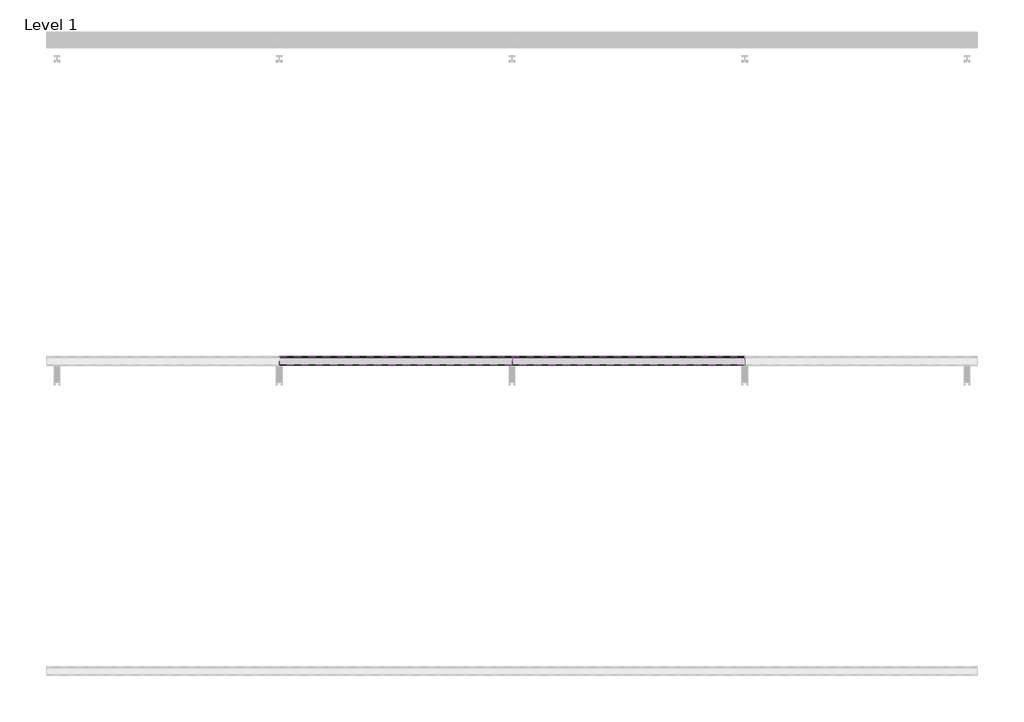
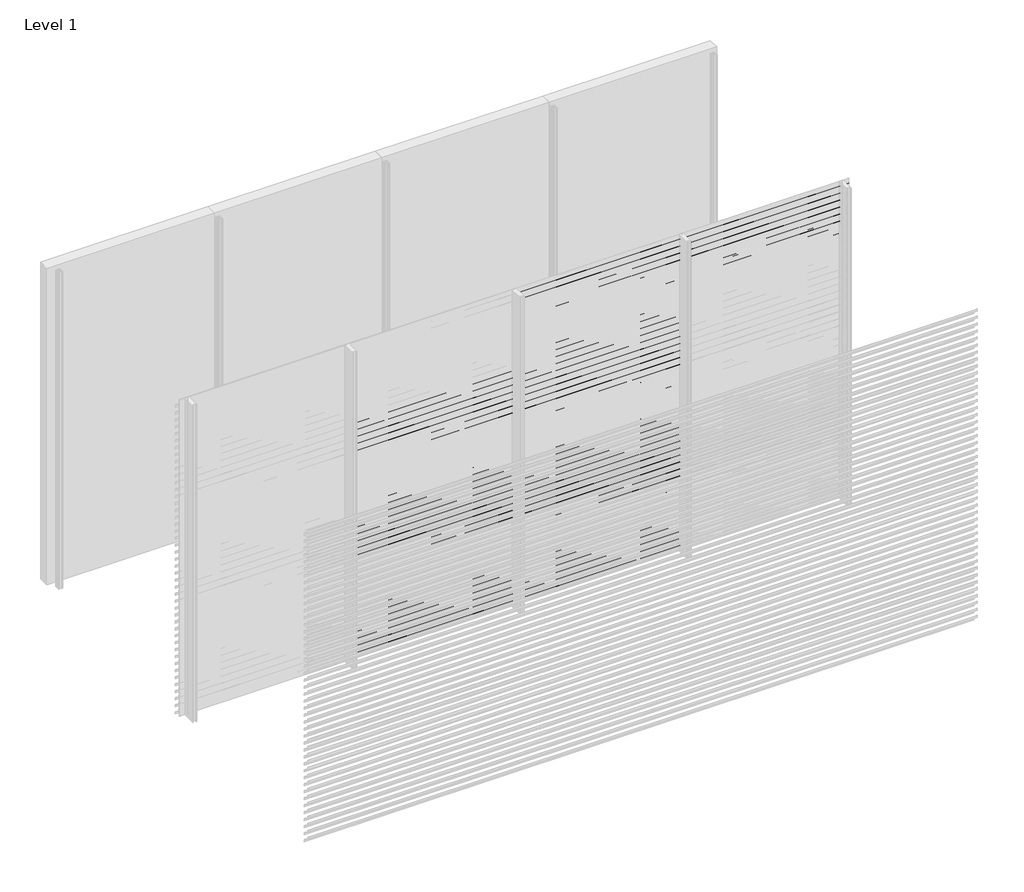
# One storey, part 4 of 25: 87 proxies.
"""IFC4 building model written with IfcOpenShell, lengths in millimetres."""

from ifc_helpers import new_model, si_unit, frame, origin, place, context, project, spatial, polyline, outline, extrude, element, save

model = new_model("IFC4")

# Units and contexts
model_context = context("Model", 3, world=origin())
ifc_project = project(units=[si_unit("LENGTHUNIT", "METRE", prefix="MILLI")], contexts=[model_context])

# Site, building, storey
site = spatial("IfcSite", under=ifc_project)
building = spatial("IfcBuilding", under=site)
storey = spatial("IfcBuildingStorey", under=building, Name="Level 1", Elevation=0.0)

# Proxies
placement = place(None, origin())
element("IfcBuildingElementProxy", 1, Name="Wall Sweeps", at=placement, inside=storey, context=model_context, shape_type="SweptSolid", body=[
    extrude(outline(polyline([(-47943.0, 2187.5), (-47943.0, 2167.5), (-47944.25, 2168.2216933), (-47944.25, 2186.7872415), (-47998.0, 2224.3158044), (-47998.0, 2244.0), (-47996.75, 2244.0), (-47996.75, 2225.0285629), (-47943.0, 2187.5)])), frame((1500.0, 0.0, 0.0), z_axis=(1.0, 0.0, 0.0), x_axis=(0.0, 1.0, 0.0)), (0.0, 0.0, 1.0), 1500.0),
])
element("IfcBuildingElementProxy", 2, Name="Wall Sweeps", at=placement, inside=storey, context=model_context, shape_type="SweptSolid", body=[
    extrude(outline(polyline([(-47943.0, 2121.5), (-47943.0, 2101.5), (-47944.25, 2102.2216933), (-47944.25, 2120.7872415), (-47998.0, 2158.3158044), (-47998.0, 2178.0), (-47996.75, 2178.0), (-47996.75, 2159.0285629), (-47943.0, 2121.5)])), frame((1500.0, 0.0, 0.0), z_axis=(1.0, 0.0, 0.0), x_axis=(0.0, 1.0, 0.0)), (0.0, 0.0, 1.0), 1500.0),
])
element("IfcBuildingElementProxy", 3, Name="Wall Sweeps", at=placement, inside=storey, context=model_context, shape_type="SweptSolid", body=[
    extrude(outline(polyline([(-47943.0, 2055.5), (-47943.0, 2035.5), (-47944.25, 2036.2216933), (-47944.25, 2054.7872415), (-47998.0, 2092.3158044), (-47998.0, 2112.0), (-47996.75, 2112.0), (-47996.75, 2093.0285629), (-47943.0, 2055.5)])), frame((1500.0, 0.0, 0.0), z_axis=(1.0, 0.0, 0.0), x_axis=(0.0, 1.0, 0.0)), (0.0, 0.0, 1.0), 1500.0),
])
element("IfcBuildingElementProxy", 4, Name="Wall Sweeps", at=placement, inside=storey, context=model_context, shape_type="SweptSolid", body=[
    extrude(outline(polyline([(-47943.0, 1989.5), (-47943.0, 1969.5), (-47944.25, 1970.2216933), (-47944.25, 1988.7872415), (-47998.0, 2026.3158044), (-47998.0, 2046.0), (-47996.75, 2046.0), (-47996.75, 2027.0285629), (-47943.0, 1989.5)])), frame((1500.0, 0.0, 0.0), z_axis=(1.0, 0.0, 0.0), x_axis=(0.0, 1.0, 0.0)), (0.0, 0.0, 1.0), 1500.0),
])
element("IfcBuildingElementProxy", 5, Name="Wall Sweeps", at=placement, inside=storey, context=model_context, shape_type="SweptSolid", body=[
    extrude(outline(polyline([(-47943.0, 1923.5), (-47943.0, 1903.5), (-47944.25, 1904.2216933), (-47944.25, 1922.7872415), (-47998.0, 1960.3158044), (-47998.0, 1980.0), (-47996.75, 1980.0), (-47996.75, 1961.0285629), (-47943.0, 1923.5)])), frame((1500.0, 0.0, 0.0), z_axis=(1.0, 0.0, 0.0), x_axis=(0.0, 1.0, 0.0)), (0.0, 0.0, 1.0), 1500.0),
])
element("IfcBuildingElementProxy", 6, Name="Wall Sweeps", at=placement, inside=storey, context=model_context, shape_type="SweptSolid", body=[
    extrude(outline(polyline([(-47943.0, 1857.5), (-47943.0, 1837.5), (-47944.25, 1838.2216933), (-47944.25, 1856.7872415), (-47998.0, 1894.3158044), (-47998.0, 1914.0), (-47996.75, 1914.0), (-47996.75, 1895.0285629), (-47943.0, 1857.5)])), frame((1500.0, 0.0, 0.0), z_axis=(1.0, 0.0, 0.0), x_axis=(0.0, 1.0, 0.0)), (0.0, 0.0, 1.0), 1500.0),
])
element("IfcBuildingElementProxy", 7, Name="Wall Sweeps", at=placement, inside=storey, context=model_context, shape_type="SweptSolid", body=[
    extrude(outline(polyline([(-47943.0, 1791.5), (-47943.0, 1771.5), (-47944.25, 1772.2216933), (-47944.25, 1790.7872415), (-47998.0, 1828.3158044), (-47998.0, 1848.0), (-47996.75, 1848.0), (-47996.75, 1829.0285629), (-47943.0, 1791.5)])), frame((1500.0, 0.0, 0.0), z_axis=(1.0, 0.0, 0.0), x_axis=(0.0, 1.0, 0.0)), (0.0, 0.0, 1.0), 1500.0),
])
element("IfcBuildingElementProxy", 8, Name="Wall Sweeps", at=placement, inside=storey, context=model_context, shape_type="SweptSolid", body=[
    extrude(outline(polyline([(-47943.0, 1725.5), (-47943.0, 1705.5), (-47944.25, 1706.2216933), (-47944.25, 1724.7872415), (-47998.0, 1762.3158044), (-47998.0, 1782.0), (-47996.75, 1782.0), (-47996.75, 1763.0285629), (-47943.0, 1725.5)])), frame((1500.0, 0.0, 0.0), z_axis=(1.0, 0.0, 0.0), x_axis=(0.0, 1.0, 0.0)), (0.0, 0.0, 1.0), 1500.0),
])
element("IfcBuildingElementProxy", 9, Name="Wall Sweeps", at=placement, inside=storey, context=model_context, shape_type="SweptSolid", body=[
    extrude(outline(polyline([(-47943.0, 1659.5), (-47943.0, 1639.5), (-47944.25, 1640.2216933), (-47944.25, 1658.7872415), (-47998.0, 1696.3158044), (-47998.0, 1716.0), (-47996.75, 1716.0), (-47996.75, 1697.0285629), (-47943.0, 1659.5)])), frame((1500.0, 0.0, 0.0), z_axis=(1.0, 0.0, 0.0), x_axis=(0.0, 1.0, 0.0)), (0.0, 0.0, 1.0), 1500.0),
])
element("IfcBuildingElementProxy", 10, Name="Wall Sweeps", at=placement, inside=storey, context=model_context, shape_type="SweptSolid", body=[
    extrude(outline(polyline([(-47943.0, 1593.5), (-47943.0, 1573.5), (-47944.25, 1574.2216933), (-47944.25, 1592.7872415), (-47998.0, 1630.3158044), (-47998.0, 1650.0), (-47996.75, 1650.0), (-47996.75, 1631.0285629), (-47943.0, 1593.5)])), frame((1500.0, 0.0, 0.0), z_axis=(1.0, 0.0, 0.0), x_axis=(0.0, 1.0, 0.0)), (0.0, 0.0, 1.0), 1500.0),
])
element("IfcBuildingElementProxy", 11, Name="Wall Sweeps", at=placement, inside=storey, context=model_context, shape_type="SweptSolid", body=[
    extrude(outline(polyline([(-47943.0, 1527.5), (-47943.0, 1507.5), (-47944.25, 1508.2216933), (-47944.25, 1526.7872415), (-47998.0, 1564.3158044), (-47998.0, 1584.0), (-47996.75, 1584.0), (-47996.75, 1565.0285629), (-47943.0, 1527.5)])), frame((1500.0, 0.0, 0.0), z_axis=(1.0, 0.0, 0.0), x_axis=(0.0, 1.0, 0.0)), (0.0, 0.0, 1.0), 1500.0),
])
element("IfcBuildingElementProxy", 12, Name="Wall Sweeps", at=placement, inside=storey, context=model_context, shape_type="SweptSolid", body=[
    extrude(outline(polyline([(-47943.0, 1461.5), (-47943.0, 1441.5), (-47944.25, 1442.2216933), (-47944.25, 1460.7872415), (-47998.0, 1498.3158044), (-47998.0, 1518.0), (-47996.75, 1518.0), (-47996.75, 1499.0285629), (-47943.0, 1461.5)])), frame((1500.0, 0.0, 0.0), z_axis=(1.0, 0.0, 0.0), x_axis=(0.0, 1.0, 0.0)), (0.0, 0.0, 1.0), 1500.0),
])
element("IfcBuildingElementProxy", 13, Name="Wall Sweeps", at=placement, inside=storey, context=model_context, shape_type="SweptSolid", body=[
    extrude(outline(polyline([(-47943.0, 1395.5), (-47943.0, 1375.5), (-47944.25, 1376.2216933), (-47944.25, 1394.7872415), (-47998.0, 1432.3158044), (-47998.0, 1452.0), (-47996.75, 1452.0), (-47996.75, 1433.0285629), (-47943.0, 1395.5)])), frame((1500.0, 0.0, 0.0), z_axis=(1.0, 0.0, 0.0), x_axis=(0.0, 1.0, 0.0)), (0.0, 0.0, 1.0), 1500.0),
])
element("IfcBuildingElementProxy", 14, Name="Wall Sweeps", at=placement, inside=storey, context=model_context, shape_type="SweptSolid", body=[
    extrude(outline(polyline([(-47943.0, 1329.5), (-47943.0, 1309.5), (-47944.25, 1310.2216933), (-47944.25, 1328.7872415), (-47998.0, 1366.3158044), (-47998.0, 1386.0), (-47996.75, 1386.0), (-47996.75, 1367.0285629), (-47943.0, 1329.5)])), frame((1500.0, 0.0, 0.0), z_axis=(1.0, 0.0, 0.0), x_axis=(0.0, 1.0, 0.0)), (0.0, 0.0, 1.0), 1500.0),
])
element("IfcBuildingElementProxy", 15, Name="Wall Sweeps", at=placement, inside=storey, context=model_context, shape_type="SweptSolid", body=[
    extrude(outline(polyline([(-47943.0, 1263.5), (-47943.0, 1243.5), (-47944.25, 1244.2216933), (-47944.25, 1262.7872415), (-47998.0, 1300.3158044), (-47998.0, 1320.0), (-47996.75, 1320.0), (-47996.75, 1301.0285629), (-47943.0, 1263.5)])), frame((1500.0, 0.0, 0.0), z_axis=(1.0, 0.0, 0.0), x_axis=(0.0, 1.0, 0.0)), (0.0, 0.0, 1.0), 1500.0),
])
element("IfcBuildingElementProxy", 16, Name="Wall Sweeps", at=placement, inside=storey, context=model_context, shape_type="SweptSolid", body=[
    extrude(outline(polyline([(-47943.0, 1197.5), (-47943.0, 1177.5), (-47944.25, 1178.2216933), (-47944.25, 1196.7872415), (-47998.0, 1234.3158044), (-47998.0, 1254.0), (-47996.75, 1254.0), (-47996.75, 1235.0285629), (-47943.0, 1197.5)])), frame((1500.0, 0.0, 0.0), z_axis=(1.0, 0.0, 0.0), x_axis=(0.0, 1.0, 0.0)), (0.0, 0.0, 1.0), 1500.0),
])
element("IfcBuildingElementProxy", 17, Name="Wall Sweeps", at=placement, inside=storey, context=model_context, shape_type="SweptSolid", body=[
    extrude(outline(polyline([(-47943.0, 1131.5), (-47943.0, 1111.5), (-47944.25, 1112.2216933), (-47944.25, 1130.7872415), (-47998.0, 1168.3158044), (-47998.0, 1188.0), (-47996.75, 1188.0), (-47996.75, 1169.0285629), (-47943.0, 1131.5)])), frame((1500.0, 0.0, 0.0), z_axis=(1.0, 0.0, 0.0), x_axis=(0.0, 1.0, 0.0)), (0.0, 0.0, 1.0), 1500.0),
])
element("IfcBuildingElementProxy", 18, Name="Wall Sweeps", at=placement, inside=storey, context=model_context, shape_type="SweptSolid", body=[
    extrude(outline(polyline([(-47943.0, 1065.5), (-47943.0, 1045.5), (-47944.25, 1046.2216933), (-47944.25, 1064.7872415), (-47998.0, 1102.3158044), (-47998.0, 1122.0), (-47996.75, 1122.0), (-47996.75, 1103.0285629), (-47943.0, 1065.5)])), frame((1500.0, 0.0, 0.0), z_axis=(1.0, 0.0, 0.0), x_axis=(0.0, 1.0, 0.0)), (0.0, 0.0, 1.0), 1500.0),
])
element("IfcBuildingElementProxy", 19, Name="Wall Sweeps", at=placement, inside=storey, context=model_context, shape_type="SweptSolid", body=[
    extrude(outline(polyline([(-47943.0, 999.5), (-47943.0, 979.5), (-47944.25, 980.2216933), (-47944.25, 998.7872415), (-47998.0, 1036.3158044), (-47998.0, 1056.0), (-47996.75, 1056.0), (-47996.75, 1037.0285629), (-47943.0, 999.5)])), frame((1500.0, 0.0, 0.0), z_axis=(1.0, 0.0, 0.0), x_axis=(0.0, 1.0, 0.0)), (0.0, 0.0, 1.0), 1500.0),
])
element("IfcBuildingElementProxy", 20, Name="Wall Sweeps", at=placement, inside=storey, context=model_context, shape_type="SweptSolid", body=[
    extrude(outline(polyline([(-47943.0, 933.5), (-47943.0, 913.5), (-47944.25, 914.2216933), (-47944.25, 932.7872415), (-47998.0, 970.3158044), (-47998.0, 990.0), (-47996.75, 990.0), (-47996.75, 971.0285629), (-47943.0, 933.5)])), frame((1500.0, 0.0, 0.0), z_axis=(1.0, 0.0, 0.0), x_axis=(0.0, 1.0, 0.0)), (0.0, 0.0, 1.0), 1500.0),
])
element("IfcBuildingElementProxy", 21, Name="Wall Sweeps", at=placement, inside=storey, context=model_context, shape_type="SweptSolid", body=[
    extrude(outline(polyline([(-47943.0, 867.5), (-47943.0, 847.5), (-47944.25, 848.2216933), (-47944.25, 866.7872415), (-47998.0, 904.3158044), (-47998.0, 924.0), (-47996.75, 924.0), (-47996.75, 905.0285629), (-47943.0, 867.5)])), frame((1500.0, 0.0, 0.0), z_axis=(1.0, 0.0, 0.0), x_axis=(0.0, 1.0, 0.0)), (0.0, 0.0, 1.0), 1500.0),
])
element("IfcBuildingElementProxy", 22, Name="Wall Sweeps", at=placement, inside=storey, context=model_context, shape_type="SweptSolid", body=[
    extrude(outline(polyline([(-47943.0, 801.5), (-47943.0, 781.5), (-47944.25, 782.2216933), (-47944.25, 800.7872415), (-47998.0, 838.3158044), (-47998.0, 858.0), (-47996.75, 858.0), (-47996.75, 839.0285629), (-47943.0, 801.5)])), frame((1500.0, 0.0, 0.0), z_axis=(1.0, 0.0, 0.0), x_axis=(0.0, 1.0, 0.0)), (0.0, 0.0, 1.0), 1500.0),
])
element("IfcBuildingElementProxy", 23, Name="Wall Sweeps", at=placement, inside=storey, context=model_context, shape_type="SweptSolid", body=[
    extrude(outline(polyline([(-47943.0, 735.5), (-47943.0, 715.5), (-47944.25, 716.2216933), (-47944.25, 734.7872415), (-47998.0, 772.3158044), (-47998.0, 792.0), (-47996.75, 792.0), (-47996.75, 773.0285629), (-47943.0, 735.5)])), frame((1500.0, 0.0, 0.0), z_axis=(1.0, 0.0, 0.0), x_axis=(0.0, 1.0, 0.0)), (0.0, 0.0, 1.0), 1500.0),
])
element("IfcBuildingElementProxy", 24, Name="Wall Sweeps", at=placement, inside=storey, context=model_context, shape_type="SweptSolid", body=[
    extrude(outline(polyline([(-47943.0, 669.5), (-47943.0, 649.5), (-47944.25, 650.2216933), (-47944.25, 668.7872415), (-47998.0, 706.3158044), (-47998.0, 726.0), (-47996.75, 726.0), (-47996.75, 707.0285629), (-47943.0, 669.5)])), frame((1500.0, 0.0, 0.0), z_axis=(1.0, 0.0, 0.0), x_axis=(0.0, 1.0, 0.0)), (0.0, 0.0, 1.0), 1500.0),
])
element("IfcBuildingElementProxy", 25, Name="Wall Sweeps", at=placement, inside=storey, context=model_context, shape_type="SweptSolid", body=[
    extrude(outline(polyline([(-47943.0, 603.5), (-47943.0, 583.5), (-47944.25, 584.2216933), (-47944.25, 602.7872415), (-47998.0, 640.3158044), (-47998.0, 660.0), (-47996.75, 660.0), (-47996.75, 641.0285629), (-47943.0, 603.5)])), frame((1500.0, 0.0, 0.0), z_axis=(1.0, 0.0, 0.0), x_axis=(0.0, 1.0, 0.0)), (0.0, 0.0, 1.0), 1500.0),
])
element("IfcBuildingElementProxy", 26, Name="Wall Sweeps", at=placement, inside=storey, context=model_context, shape_type="SweptSolid", body=[
    extrude(outline(polyline([(-47943.0, 537.5), (-47943.0, 517.5), (-47944.25, 518.2216933), (-47944.25, 536.7872415), (-47998.0, 574.3158044), (-47998.0, 594.0), (-47996.75, 594.0), (-47996.75, 575.0285629), (-47943.0, 537.5)])), frame((1500.0, 0.0, 0.0), z_axis=(1.0, 0.0, 0.0), x_axis=(0.0, 1.0, 0.0)), (0.0, 0.0, 1.0), 1500.0),
])
element("IfcBuildingElementProxy", 27, Name="Wall Sweeps", at=placement, inside=storey, context=model_context, shape_type="SweptSolid", body=[
    extrude(outline(polyline([(-47943.0, 471.5), (-47943.0, 451.5), (-47944.25, 452.2216933), (-47944.25, 470.7872415), (-47998.0, 508.3158044), (-47998.0, 528.0), (-47996.75, 528.0), (-47996.75, 509.0285629), (-47943.0, 471.5)])), frame((1500.0, 0.0, 0.0), z_axis=(1.0, 0.0, 0.0), x_axis=(0.0, 1.0, 0.0)), (0.0, 0.0, 1.0), 1500.0),
])
element("IfcBuildingElementProxy", 28, Name="Wall Sweeps", at=placement, inside=storey, context=model_context, shape_type="SweptSolid", body=[
    extrude(outline(polyline([(-47943.0, 405.5), (-47943.0, 385.5), (-47944.25, 386.2216933), (-47944.25, 404.7872415), (-47998.0, 442.3158044), (-47998.0, 462.0), (-47996.75, 462.0), (-47996.75, 443.0285629), (-47943.0, 405.5)])), frame((1500.0, 0.0, 0.0), z_axis=(1.0, 0.0, 0.0), x_axis=(0.0, 1.0, 0.0)), (0.0, 0.0, 1.0), 1500.0),
])
element("IfcBuildingElementProxy", 29, Name="Wall Sweeps", at=placement, inside=storey, context=model_context, shape_type="SweptSolid", body=[
    extrude(outline(polyline([(-47943.0, 339.5), (-47943.0, 319.5), (-47944.25, 320.2216933), (-47944.25, 338.7872415), (-47998.0, 376.3158044), (-47998.0, 396.0), (-47996.75, 396.0), (-47996.75, 377.0285629), (-47943.0, 339.5)])), frame((1500.0, 0.0, 0.0), z_axis=(1.0, 0.0, 0.0), x_axis=(0.0, 1.0, 0.0)), (0.0, 0.0, 1.0), 1500.0),
])
element("IfcBuildingElementProxy", 30, Name="Wall Sweeps", at=placement, inside=storey, context=model_context, shape_type="SweptSolid", body=[
    extrude(outline(polyline([(-47943.0, 273.5), (-47943.0, 253.5), (-47944.25, 254.2216933), (-47944.25, 272.7872415), (-47998.0, 310.3158044), (-47998.0, 330.0), (-47996.75, 330.0), (-47996.75, 311.0285629), (-47943.0, 273.5)])), frame((1500.0, 0.0, 0.0), z_axis=(1.0, 0.0, 0.0), x_axis=(0.0, 1.0, 0.0)), (0.0, 0.0, 1.0), 1500.0),
])
element("IfcBuildingElementProxy", 31, Name="Wall Sweeps", at=placement, inside=storey, context=model_context, shape_type="SweptSolid", body=[
    extrude(outline(polyline([(-47943.0, 207.5), (-47943.0, 187.5), (-47944.25, 188.2216933), (-47944.25, 206.7872415), (-47998.0, 244.3158044), (-47998.0, 264.0), (-47996.75, 264.0), (-47996.75, 245.0285629), (-47943.0, 207.5)])), frame((1500.0, 0.0, 0.0), z_axis=(1.0, 0.0, 0.0), x_axis=(0.0, 1.0, 0.0)), (0.0, 0.0, 1.0), 1500.0),
])
element("IfcBuildingElementProxy", 32, Name="Wall Sweeps", at=placement, inside=storey, context=model_context, shape_type="SweptSolid", body=[
    extrude(outline(polyline([(-47943.0, 141.5), (-47943.0, 121.5), (-47944.25, 122.2216933), (-47944.25, 140.7872415), (-47998.0, 178.3158044), (-47998.0, 198.0), (-47996.75, 198.0), (-47996.75, 179.0285629), (-47943.0, 141.5)])), frame((1500.0, 0.0, 0.0), z_axis=(1.0, 0.0, 0.0), x_axis=(0.0, 1.0, 0.0)), (0.0, 0.0, 1.0), 1500.0),
])
element("IfcBuildingElementProxy", 33, Name="Wall Sweeps", at=placement, inside=storey, context=model_context, shape_type="SweptSolid", body=[
    extrude(outline(polyline([(-47943.0, 75.5), (-47943.0, 55.5), (-47944.25, 56.2216933), (-47944.25, 74.7872415), (-47998.0, 112.3158044), (-47998.0, 132.0), (-47996.75, 132.0), (-47996.75, 113.0285629), (-47943.0, 75.5)])), frame((1500.0, 0.0, 0.0), z_axis=(1.0, 0.0, 0.0), x_axis=(0.0, 1.0, 0.0)), (0.0, 0.0, 1.0), 1500.0),
])
element("IfcBuildingElementProxy", 34, Name="Wall Sweeps", at=placement, inside=storey, context=model_context, shape_type="SweptSolid", body=[
    extrude(outline(polyline([(-47943.0, 9.5), (-47943.0, -10.5), (-47944.25, -9.7783067), (-47944.25, 8.7872415), (-47998.0, 46.3158044), (-47998.0, 66.0), (-47996.75, 66.0), (-47996.75, 47.0285629), (-47943.0, 9.5)])), frame((1500.0, 0.0, 0.0), z_axis=(1.0, 0.0, 0.0), x_axis=(0.0, 1.0, 0.0)), (0.0, 0.0, 1.0), 1500.0),
])
element("IfcBuildingElementProxy", 35, Name="Wall Sweeps", at=placement, inside=storey, context=model_context, shape_type="SweptSolid", body=[
    extrude(outline(polyline([(-47943.0, 2913.5), (-47943.0, 2893.5), (-47944.25, 2894.2216933), (-47944.25, 2912.7872415), (-47998.0, 2950.3158044), (-47998.0, 2970.0), (-47996.75, 2970.0), (-47996.75, 2951.0285629), (-47943.0, 2913.5)])), frame((3000.0, 0.0, 0.0), z_axis=(1.0, 0.0, 0.0), x_axis=(0.0, 1.0, 0.0)), (0.0, 0.0, 1.0), 1500.0),
])
element("IfcBuildingElementProxy", 36, Name="Wall Sweeps", at=placement, inside=storey, context=model_context, shape_type="SweptSolid", body=[
    extrude(outline(polyline([(-47943.0, 2847.5), (-47943.0, 2827.5), (-47944.25, 2828.2216933), (-47944.25, 2846.7872415), (-47998.0, 2884.3158044), (-47998.0, 2904.0), (-47996.75, 2904.0), (-47996.75, 2885.0285629), (-47943.0, 2847.5)])), frame((3000.0, 0.0, 0.0), z_axis=(1.0, 0.0, 0.0), x_axis=(0.0, 1.0, 0.0)), (0.0, 0.0, 1.0), 1500.0),
])
element("IfcBuildingElementProxy", 37, Name="Wall Sweeps", at=placement, inside=storey, context=model_context, shape_type="SweptSolid", body=[
    extrude(outline(polyline([(-47943.0, 2781.5), (-47943.0, 2761.5), (-47944.25, 2762.2216933), (-47944.25, 2780.7872415), (-47998.0, 2818.3158044), (-47998.0, 2838.0), (-47996.75, 2838.0), (-47996.75, 2819.0285629), (-47943.0, 2781.5)])), frame((3000.0, 0.0, 0.0), z_axis=(1.0, 0.0, 0.0), x_axis=(0.0, 1.0, 0.0)), (0.0, 0.0, 1.0), 1500.0),
])
element("IfcBuildingElementProxy", 38, Name="Wall Sweeps", at=placement, inside=storey, context=model_context, shape_type="SweptSolid", body=[
    extrude(outline(polyline([(-47943.0, 2715.5), (-47943.0, 2695.5), (-47944.25, 2696.2216933), (-47944.25, 2714.7872415), (-47998.0, 2752.3158044), (-47998.0, 2772.0), (-47996.75, 2772.0), (-47996.75, 2753.0285629), (-47943.0, 2715.5)])), frame((3000.0, 0.0, 0.0), z_axis=(1.0, 0.0, 0.0), x_axis=(0.0, 1.0, 0.0)), (0.0, 0.0, 1.0), 1500.0),
])
element("IfcBuildingElementProxy", 39, Name="Wall Sweeps", at=placement, inside=storey, context=model_context, shape_type="SweptSolid", body=[
    extrude(outline(polyline([(-47943.0, 2649.5), (-47943.0, 2629.5), (-47944.25, 2630.2216933), (-47944.25, 2648.7872415), (-47998.0, 2686.3158044), (-47998.0, 2706.0), (-47996.75, 2706.0), (-47996.75, 2687.0285629), (-47943.0, 2649.5)])), frame((3000.0, 0.0, 0.0), z_axis=(1.0, 0.0, 0.0), x_axis=(0.0, 1.0, 0.0)), (0.0, 0.0, 1.0), 1500.0),
])
element("IfcBuildingElementProxy", 40, Name="Wall Sweeps", at=placement, inside=storey, context=model_context, shape_type="SweptSolid", body=[
    extrude(outline(polyline([(-47943.0, 2583.5), (-47943.0, 2563.5), (-47944.25, 2564.2216933), (-47944.25, 2582.7872415), (-47998.0, 2620.3158044), (-47998.0, 2640.0), (-47996.75, 2640.0), (-47996.75, 2621.0285629), (-47943.0, 2583.5)])), frame((3000.0, 0.0, 0.0), z_axis=(1.0, 0.0, 0.0), x_axis=(0.0, 1.0, 0.0)), (0.0, 0.0, 1.0), 1500.0),
])
element("IfcBuildingElementProxy", 41, Name="Wall Sweeps", at=placement, inside=storey, context=model_context, shape_type="SweptSolid", body=[
    extrude(outline(polyline([(-47943.0, 2517.5), (-47943.0, 2497.5), (-47944.25, 2498.2216933), (-47944.25, 2516.7872415), (-47998.0, 2554.3158044), (-47998.0, 2574.0), (-47996.75, 2574.0), (-47996.75, 2555.0285629), (-47943.0, 2517.5)])), frame((3000.0, 0.0, 0.0), z_axis=(1.0, 0.0, 0.0), x_axis=(0.0, 1.0, 0.0)), (0.0, 0.0, 1.0), 1500.0),
])
element("IfcBuildingElementProxy", 42, Name="Wall Sweeps", at=placement, inside=storey, context=model_context, shape_type="SweptSolid", body=[
    extrude(outline(polyline([(-47943.0, 2451.5), (-47943.0, 2431.5), (-47944.25, 2432.2216933), (-47944.25, 2450.7872415), (-47998.0, 2488.3158044), (-47998.0, 2508.0), (-47996.75, 2508.0), (-47996.75, 2489.0285629), (-47943.0, 2451.5)])), frame((3000.0, 0.0, 0.0), z_axis=(1.0, 0.0, 0.0), x_axis=(0.0, 1.0, 0.0)), (0.0, 0.0, 1.0), 1500.0),
])
element("IfcBuildingElementProxy", 43, Name="Wall Sweeps", at=placement, inside=storey, context=model_context, shape_type="SweptSolid", body=[
    extrude(outline(polyline([(-47943.0, 2385.5), (-47943.0, 2365.5), (-47944.25, 2366.2216933), (-47944.25, 2384.7872415), (-47998.0, 2422.3158044), (-47998.0, 2442.0), (-47996.75, 2442.0), (-47996.75, 2423.0285629), (-47943.0, 2385.5)])), frame((3000.0, 0.0, 0.0), z_axis=(1.0, 0.0, 0.0), x_axis=(0.0, 1.0, 0.0)), (0.0, 0.0, 1.0), 1500.0),
])
element("IfcBuildingElementProxy", 44, Name="Wall Sweeps", at=placement, inside=storey, context=model_context, shape_type="SweptSolid", body=[
    extrude(outline(polyline([(-47943.0, 2319.5), (-47943.0, 2299.5), (-47944.25, 2300.2216933), (-47944.25, 2318.7872415), (-47998.0, 2356.3158044), (-47998.0, 2376.0), (-47996.75, 2376.0), (-47996.75, 2357.0285629), (-47943.0, 2319.5)])), frame((3000.0, 0.0, 0.0), z_axis=(1.0, 0.0, 0.0), x_axis=(0.0, 1.0, 0.0)), (0.0, 0.0, 1.0), 1500.0),
])
element("IfcBuildingElementProxy", 45, Name="Wall Sweeps", at=placement, inside=storey, context=model_context, shape_type="SweptSolid", body=[
    extrude(outline(polyline([(-47943.0, 2253.5), (-47943.0, 2233.5), (-47944.25, 2234.2216933), (-47944.25, 2252.7872415), (-47998.0, 2290.3158044), (-47998.0, 2310.0), (-47996.75, 2310.0), (-47996.75, 2291.0285629), (-47943.0, 2253.5)])), frame((3000.0, 0.0, 0.0), z_axis=(1.0, 0.0, 0.0), x_axis=(0.0, 1.0, 0.0)), (0.0, 0.0, 1.0), 1500.0),
])
element("IfcBuildingElementProxy", 46, Name="Wall Sweeps", at=placement, inside=storey, context=model_context, shape_type="SweptSolid", body=[
    extrude(outline(polyline([(-47943.0, 2187.5), (-47943.0, 2167.5), (-47944.25, 2168.2216933), (-47944.25, 2186.7872415), (-47998.0, 2224.3158044), (-47998.0, 2244.0), (-47996.75, 2244.0), (-47996.75, 2225.0285629), (-47943.0, 2187.5)])), frame((3000.0, 0.0, 0.0), z_axis=(1.0, 0.0, 0.0), x_axis=(0.0, 1.0, 0.0)), (0.0, 0.0, 1.0), 1500.0),
])
element("IfcBuildingElementProxy", 47, Name="Wall Sweeps", at=placement, inside=storey, context=model_context, shape_type="SweptSolid", body=[
    extrude(outline(polyline([(-47943.0, 2121.5), (-47943.0, 2101.5), (-47944.25, 2102.2216933), (-47944.25, 2120.7872415), (-47998.0, 2158.3158044), (-47998.0, 2178.0), (-47996.75, 2178.0), (-47996.75, 2159.0285629), (-47943.0, 2121.5)])), frame((3000.0, 0.0, 0.0), z_axis=(1.0, 0.0, 0.0), x_axis=(0.0, 1.0, 0.0)), (0.0, 0.0, 1.0), 1500.0),
])
element("IfcBuildingElementProxy", 48, Name="Wall Sweeps", at=placement, inside=storey, context=model_context, shape_type="SweptSolid", body=[
    extrude(outline(polyline([(-47943.0, 2055.5), (-47943.0, 2035.5), (-47944.25, 2036.2216933), (-47944.25, 2054.7872415), (-47998.0, 2092.3158044), (-47998.0, 2112.0), (-47996.75, 2112.0), (-47996.75, 2093.0285629), (-47943.0, 2055.5)])), frame((3000.0, 0.0, 0.0), z_axis=(1.0, 0.0, 0.0), x_axis=(0.0, 1.0, 0.0)), (0.0, 0.0, 1.0), 1500.0),
])
element("IfcBuildingElementProxy", 49, Name="Wall Sweeps", at=placement, inside=storey, context=model_context, shape_type="SweptSolid", body=[
    extrude(outline(polyline([(-47943.0, 1989.5), (-47943.0, 1969.5), (-47944.25, 1970.2216933), (-47944.25, 1988.7872415), (-47998.0, 2026.3158044), (-47998.0, 2046.0), (-47996.75, 2046.0), (-47996.75, 2027.0285629), (-47943.0, 1989.5)])), frame((3000.0, 0.0, 0.0), z_axis=(1.0, 0.0, 0.0), x_axis=(0.0, 1.0, 0.0)), (0.0, 0.0, 1.0), 1500.0),
])
element("IfcBuildingElementProxy", 50, Name="Wall Sweeps", at=placement, inside=storey, context=model_context, shape_type="SweptSolid", body=[
    extrude(outline(polyline([(-47943.0, 1923.5), (-47943.0, 1903.5), (-47944.25, 1904.2216933), (-47944.25, 1922.7872415), (-47998.0, 1960.3158044), (-47998.0, 1980.0), (-47996.75, 1980.0), (-47996.75, 1961.0285629), (-47943.0, 1923.5)])), frame((3000.0, 0.0, 0.0), z_axis=(1.0, 0.0, 0.0), x_axis=(0.0, 1.0, 0.0)), (0.0, 0.0, 1.0), 1500.0),
])
element("IfcBuildingElementProxy", 51, Name="Wall Sweeps", at=placement, inside=storey, context=model_context, shape_type="SweptSolid", body=[
    extrude(outline(polyline([(-47943.0, 1857.5), (-47943.0, 1837.5), (-47944.25, 1838.2216933), (-47944.25, 1856.7872415), (-47998.0, 1894.3158044), (-47998.0, 1914.0), (-47996.75, 1914.0), (-47996.75, 1895.0285629), (-47943.0, 1857.5)])), frame((3000.0, 0.0, 0.0), z_axis=(1.0, 0.0, 0.0), x_axis=(0.0, 1.0, 0.0)), (0.0, 0.0, 1.0), 1500.0),
])
element("IfcBuildingElementProxy", 52, Name="Wall Sweeps", at=placement, inside=storey, context=model_context, shape_type="SweptSolid", body=[
    extrude(outline(polyline([(-47943.0, 1791.5), (-47943.0, 1771.5), (-47944.25, 1772.2216933), (-47944.25, 1790.7872415), (-47998.0, 1828.3158044), (-47998.0, 1848.0), (-47996.75, 1848.0), (-47996.75, 1829.0285629), (-47943.0, 1791.5)])), frame((3000.0, 0.0, 0.0), z_axis=(1.0, 0.0, 0.0), x_axis=(0.0, 1.0, 0.0)), (0.0, 0.0, 1.0), 1500.0),
])
element("IfcBuildingElementProxy", 53, Name="Wall Sweeps", at=placement, inside=storey, context=model_context, shape_type="SweptSolid", body=[
    extrude(outline(polyline([(-47943.0, 1725.5), (-47943.0, 1705.5), (-47944.25, 1706.2216933), (-47944.25, 1724.7872415), (-47998.0, 1762.3158044), (-47998.0, 1782.0), (-47996.75, 1782.0), (-47996.75, 1763.0285629), (-47943.0, 1725.5)])), frame((3000.0, 0.0, 0.0), z_axis=(1.0, 0.0, 0.0), x_axis=(0.0, 1.0, 0.0)), (0.0, 0.0, 1.0), 1500.0),
])
element("IfcBuildingElementProxy", 54, Name="Wall Sweeps", at=placement, inside=storey, context=model_context, shape_type="SweptSolid", body=[
    extrude(outline(polyline([(-47943.0, 1659.5), (-47943.0, 1639.5), (-47944.25, 1640.2216933), (-47944.25, 1658.7872415), (-47998.0, 1696.3158044), (-47998.0, 1716.0), (-47996.75, 1716.0), (-47996.75, 1697.0285629), (-47943.0, 1659.5)])), frame((3000.0, 0.0, 0.0), z_axis=(1.0, 0.0, 0.0), x_axis=(0.0, 1.0, 0.0)), (0.0, 0.0, 1.0), 1500.0),
])
element("IfcBuildingElementProxy", 55, Name="Wall Sweeps", at=placement, inside=storey, context=model_context, shape_type="SweptSolid", body=[
    extrude(outline(polyline([(-47943.0, 1593.5), (-47943.0, 1573.5), (-47944.25, 1574.2216933), (-47944.25, 1592.7872415), (-47998.0, 1630.3158044), (-47998.0, 1650.0), (-47996.75, 1650.0), (-47996.75, 1631.0285629), (-47943.0, 1593.5)])), frame((3000.0, 0.0, 0.0), z_axis=(1.0, 0.0, 0.0), x_axis=(0.0, 1.0, 0.0)), (0.0, 0.0, 1.0), 1500.0),
])
element("IfcBuildingElementProxy", 56, Name="Wall Sweeps", at=placement, inside=storey, context=model_context, shape_type="SweptSolid", body=[
    extrude(outline(polyline([(-47943.0, 1527.5), (-47943.0, 1507.5), (-47944.25, 1508.2216933), (-47944.25, 1526.7872415), (-47998.0, 1564.3158044), (-47998.0, 1584.0), (-47996.75, 1584.0), (-47996.75, 1565.0285629), (-47943.0, 1527.5)])), frame((3000.0, 0.0, 0.0), z_axis=(1.0, 0.0, 0.0), x_axis=(0.0, 1.0, 0.0)), (0.0, 0.0, 1.0), 1500.0),
])
element("IfcBuildingElementProxy", 57, Name="Wall Sweeps", at=placement, inside=storey, context=model_context, shape_type="SweptSolid", body=[
    extrude(outline(polyline([(-47943.0, 1461.5), (-47943.0, 1441.5), (-47944.25, 1442.2216933), (-47944.25, 1460.7872415), (-47998.0, 1498.3158044), (-47998.0, 1518.0), (-47996.75, 1518.0), (-47996.75, 1499.0285629), (-47943.0, 1461.5)])), frame((3000.0, 0.0, 0.0), z_axis=(1.0, 0.0, 0.0), x_axis=(0.0, 1.0, 0.0)), (0.0, 0.0, 1.0), 1500.0),
])
element("IfcBuildingElementProxy", 58, Name="Wall Sweeps", at=placement, inside=storey, context=model_context, shape_type="SweptSolid", body=[
    extrude(outline(polyline([(-47943.0, 1395.5), (-47943.0, 1375.5), (-47944.25, 1376.2216933), (-47944.25, 1394.7872415), (-47998.0, 1432.3158044), (-47998.0, 1452.0), (-47996.75, 1452.0), (-47996.75, 1433.0285629), (-47943.0, 1395.5)])), frame((3000.0, 0.0, 0.0), z_axis=(1.0, 0.0, 0.0), x_axis=(0.0, 1.0, 0.0)), (0.0, 0.0, 1.0), 1500.0),
])
element("IfcBuildingElementProxy", 59, Name="Wall Sweeps", at=placement, inside=storey, context=model_context, shape_type="SweptSolid", body=[
    extrude(outline(polyline([(-47943.0, 1329.5), (-47943.0, 1309.5), (-47944.25, 1310.2216933), (-47944.25, 1328.7872415), (-47998.0, 1366.3158044), (-47998.0, 1386.0), (-47996.75, 1386.0), (-47996.75, 1367.0285629), (-47943.0, 1329.5)])), frame((3000.0, 0.0, 0.0), z_axis=(1.0, 0.0, 0.0), x_axis=(0.0, 1.0, 0.0)), (0.0, 0.0, 1.0), 1500.0),
])
element("IfcBuildingElementProxy", 60, Name="Wall Sweeps", at=placement, inside=storey, context=model_context, shape_type="SweptSolid", body=[
    extrude(outline(polyline([(-47943.0, 1263.5), (-47943.0, 1243.5), (-47944.25, 1244.2216933), (-47944.25, 1262.7872415), (-47998.0, 1300.3158044), (-47998.0, 1320.0), (-47996.75, 1320.0), (-47996.75, 1301.0285629), (-47943.0, 1263.5)])), frame((3000.0, 0.0, 0.0), z_axis=(1.0, 0.0, 0.0), x_axis=(0.0, 1.0, 0.0)), (0.0, 0.0, 1.0), 1500.0),
])
element("IfcBuildingElementProxy", 61, Name="Wall Sweeps", at=placement, inside=storey, context=model_context, shape_type="SweptSolid", body=[
    extrude(outline(polyline([(-47943.0, 1197.5), (-47943.0, 1177.5), (-47944.25, 1178.2216933), (-47944.25, 1196.7872415), (-47998.0, 1234.3158044), (-47998.0, 1254.0), (-47996.75, 1254.0), (-47996.75, 1235.0285629), (-47943.0, 1197.5)])), frame((3000.0, 0.0, 0.0), z_axis=(1.0, 0.0, 0.0), x_axis=(0.0, 1.0, 0.0)), (0.0, 0.0, 1.0), 1500.0),
])
element("IfcBuildingElementProxy", 62, Name="Wall Sweeps", at=placement, inside=storey, context=model_context, shape_type="SweptSolid", body=[
    extrude(outline(polyline([(-47943.0, 1131.5), (-47943.0, 1111.5), (-47944.25, 1112.2216933), (-47944.25, 1130.7872415), (-47998.0, 1168.3158044), (-47998.0, 1188.0), (-47996.75, 1188.0), (-47996.75, 1169.0285629), (-47943.0, 1131.5)])), frame((3000.0, 0.0, 0.0), z_axis=(1.0, 0.0, 0.0), x_axis=(0.0, 1.0, 0.0)), (0.0, 0.0, 1.0), 1500.0),
])
element("IfcBuildingElementProxy", 63, Name="Wall Sweeps", at=placement, inside=storey, context=model_context, shape_type="SweptSolid", body=[
    extrude(outline(polyline([(-47943.0, 1065.5), (-47943.0, 1045.5), (-47944.25, 1046.2216933), (-47944.25, 1064.7872415), (-47998.0, 1102.3158044), (-47998.0, 1122.0), (-47996.75, 1122.0), (-47996.75, 1103.0285629), (-47943.0, 1065.5)])), frame((3000.0, 0.0, 0.0), z_axis=(1.0, 0.0, 0.0), x_axis=(0.0, 1.0, 0.0)), (0.0, 0.0, 1.0), 1500.0),
])
element("IfcBuildingElementProxy", 64, Name="Wall Sweeps", at=placement, inside=storey, context=model_context, shape_type="SweptSolid", body=[
    extrude(outline(polyline([(-47943.0, 999.5), (-47943.0, 979.5), (-47944.25, 980.2216933), (-47944.25, 998.7872415), (-47998.0, 1036.3158044), (-47998.0, 1056.0), (-47996.75, 1056.0), (-47996.75, 1037.0285629), (-47943.0, 999.5)])), frame((3000.0, 0.0, 0.0), z_axis=(1.0, 0.0, 0.0), x_axis=(0.0, 1.0, 0.0)), (0.0, 0.0, 1.0), 1500.0),
])
element("IfcBuildingElementProxy", 65, Name="Wall Sweeps", at=placement, inside=storey, context=model_context, shape_type="SweptSolid", body=[
    extrude(outline(polyline([(-47943.0, 933.5), (-47943.0, 913.5), (-47944.25, 914.2216933), (-47944.25, 932.7872415), (-47998.0, 970.3158044), (-47998.0, 990.0), (-47996.75, 990.0), (-47996.75, 971.0285629), (-47943.0, 933.5)])), frame((3000.0, 0.0, 0.0), z_axis=(1.0, 0.0, 0.0), x_axis=(0.0, 1.0, 0.0)), (0.0, 0.0, 1.0), 1500.0),
])
element("IfcBuildingElementProxy", 66, Name="Wall Sweeps", at=placement, inside=storey, context=model_context, shape_type="SweptSolid", body=[
    extrude(outline(polyline([(-47943.0, 867.5), (-47943.0, 847.5), (-47944.25, 848.2216933), (-47944.25, 866.7872415), (-47998.0, 904.3158044), (-47998.0, 924.0), (-47996.75, 924.0), (-47996.75, 905.0285629), (-47943.0, 867.5)])), frame((3000.0, 0.0, 0.0), z_axis=(1.0, 0.0, 0.0), x_axis=(0.0, 1.0, 0.0)), (0.0, 0.0, 1.0), 1500.0),
])
element("IfcBuildingElementProxy", 67, Name="Wall Sweeps", at=placement, inside=storey, context=model_context, shape_type="SweptSolid", body=[
    extrude(outline(polyline([(-47943.0, 801.5), (-47943.0, 781.5), (-47944.25, 782.2216933), (-47944.25, 800.7872415), (-47998.0, 838.3158044), (-47998.0, 858.0), (-47996.75, 858.0), (-47996.75, 839.0285629), (-47943.0, 801.5)])), frame((3000.0, 0.0, 0.0), z_axis=(1.0, 0.0, 0.0), x_axis=(0.0, 1.0, 0.0)), (0.0, 0.0, 1.0), 1500.0),
])
element("IfcBuildingElementProxy", 68, Name="Wall Sweeps", at=placement, inside=storey, context=model_context, shape_type="SweptSolid", body=[
    extrude(outline(polyline([(-47943.0, 735.5), (-47943.0, 715.5), (-47944.25, 716.2216933), (-47944.25, 734.7872415), (-47998.0, 772.3158044), (-47998.0, 792.0), (-47996.75, 792.0), (-47996.75, 773.0285629), (-47943.0, 735.5)])), frame((3000.0, 0.0, 0.0), z_axis=(1.0, 0.0, 0.0), x_axis=(0.0, 1.0, 0.0)), (0.0, 0.0, 1.0), 1500.0),
])
element("IfcBuildingElementProxy", 69, Name="Wall Sweeps", at=placement, inside=storey, context=model_context, shape_type="SweptSolid", body=[
    extrude(outline(polyline([(-47943.0, 669.5), (-47943.0, 649.5), (-47944.25, 650.2216933), (-47944.25, 668.7872415), (-47998.0, 706.3158044), (-47998.0, 726.0), (-47996.75, 726.0), (-47996.75, 707.0285629), (-47943.0, 669.5)])), frame((3000.0, 0.0, 0.0), z_axis=(1.0, 0.0, 0.0), x_axis=(0.0, 1.0, 0.0)), (0.0, 0.0, 1.0), 1500.0),
])
element("IfcBuildingElementProxy", 70, Name="Wall Sweeps", at=placement, inside=storey, context=model_context, shape_type="SweptSolid", body=[
    extrude(outline(polyline([(-47943.0, 603.5), (-47943.0, 583.5), (-47944.25, 584.2216933), (-47944.25, 602.7872415), (-47998.0, 640.3158044), (-47998.0, 660.0), (-47996.75, 660.0), (-47996.75, 641.0285629), (-47943.0, 603.5)])), frame((3000.0, 0.0, 0.0), z_axis=(1.0, 0.0, 0.0), x_axis=(0.0, 1.0, 0.0)), (0.0, 0.0, 1.0), 1500.0),
])
element("IfcBuildingElementProxy", 71, Name="Wall Sweeps", at=placement, inside=storey, context=model_context, shape_type="SweptSolid", body=[
    extrude(outline(polyline([(-47943.0, 537.5), (-47943.0, 517.5), (-47944.25, 518.2216933), (-47944.25, 536.7872415), (-47998.0, 574.3158044), (-47998.0, 594.0), (-47996.75, 594.0), (-47996.75, 575.0285629), (-47943.0, 537.5)])), frame((3000.0, 0.0, 0.0), z_axis=(1.0, 0.0, 0.0), x_axis=(0.0, 1.0, 0.0)), (0.0, 0.0, 1.0), 1500.0),
])
element("IfcBuildingElementProxy", 72, Name="Wall Sweeps", at=placement, inside=storey, context=model_context, shape_type="SweptSolid", body=[
    extrude(outline(polyline([(-47943.0, 471.5), (-47943.0, 451.5), (-47944.25, 452.2216933), (-47944.25, 470.7872415), (-47998.0, 508.3158044), (-47998.0, 528.0), (-47996.75, 528.0), (-47996.75, 509.0285629), (-47943.0, 471.5)])), frame((3000.0, 0.0, 0.0), z_axis=(1.0, 0.0, 0.0), x_axis=(0.0, 1.0, 0.0)), (0.0, 0.0, 1.0), 1500.0),
])
element("IfcBuildingElementProxy", 73, Name="Wall Sweeps", at=placement, inside=storey, context=model_context, shape_type="SweptSolid", body=[
    extrude(outline(polyline([(-47943.0, 405.5), (-47943.0, 385.5), (-47944.25, 386.2216933), (-47944.25, 404.7872415), (-47998.0, 442.3158044), (-47998.0, 462.0), (-47996.75, 462.0), (-47996.75, 443.0285629), (-47943.0, 405.5)])), frame((3000.0, 0.0, 0.0), z_axis=(1.0, 0.0, 0.0), x_axis=(0.0, 1.0, 0.0)), (0.0, 0.0, 1.0), 1500.0),
])
element("IfcBuildingElementProxy", 74, Name="Wall Sweeps", at=placement, inside=storey, context=model_context, shape_type="SweptSolid", body=[
    extrude(outline(polyline([(-47943.0, 339.5), (-47943.0, 319.5), (-47944.25, 320.2216933), (-47944.25, 338.7872415), (-47998.0, 376.3158044), (-47998.0, 396.0), (-47996.75, 396.0), (-47996.75, 377.0285629), (-47943.0, 339.5)])), frame((3000.0, 0.0, 0.0), z_axis=(1.0, 0.0, 0.0), x_axis=(0.0, 1.0, 0.0)), (0.0, 0.0, 1.0), 1500.0),
])
element("IfcBuildingElementProxy", 75, Name="Wall Sweeps", at=placement, inside=storey, context=model_context, shape_type="SweptSolid", body=[
    extrude(outline(polyline([(-47943.0, 273.5), (-47943.0, 253.5), (-47944.25, 254.2216933), (-47944.25, 272.7872415), (-47998.0, 310.3158044), (-47998.0, 330.0), (-47996.75, 330.0), (-47996.75, 311.0285629), (-47943.0, 273.5)])), frame((3000.0, 0.0, 0.0), z_axis=(1.0, 0.0, 0.0), x_axis=(0.0, 1.0, 0.0)), (0.0, 0.0, 1.0), 1500.0),
])
element("IfcBuildingElementProxy", 76, Name="Wall Sweeps", at=placement, inside=storey, context=model_context, shape_type="SweptSolid", body=[
    extrude(outline(polyline([(-47943.0, 207.5), (-47943.0, 187.5), (-47944.25, 188.2216933), (-47944.25, 206.7872415), (-47998.0, 244.3158044), (-47998.0, 264.0), (-47996.75, 264.0), (-47996.75, 245.0285629), (-47943.0, 207.5)])), frame((3000.0, 0.0, 0.0), z_axis=(1.0, 0.0, 0.0), x_axis=(0.0, 1.0, 0.0)), (0.0, 0.0, 1.0), 1500.0),
])
element("IfcBuildingElementProxy", 77, Name="Wall Sweeps", at=placement, inside=storey, context=model_context, shape_type="SweptSolid", body=[
    extrude(outline(polyline([(-47943.0, 141.5), (-47943.0, 121.5), (-47944.25, 122.2216933), (-47944.25, 140.7872415), (-47998.0, 178.3158044), (-47998.0, 198.0), (-47996.75, 198.0), (-47996.75, 179.0285629), (-47943.0, 141.5)])), frame((3000.0, 0.0, 0.0), z_axis=(1.0, 0.0, 0.0), x_axis=(0.0, 1.0, 0.0)), (0.0, 0.0, 1.0), 1500.0),
])
element("IfcBuildingElementProxy", 78, Name="Wall Sweeps", at=placement, inside=storey, context=model_context, shape_type="SweptSolid", body=[
    extrude(outline(polyline([(-47943.0, 75.5), (-47943.0, 55.5), (-47944.25, 56.2216933), (-47944.25, 74.7872415), (-47998.0, 112.3158044), (-47998.0, 132.0), (-47996.75, 132.0), (-47996.75, 113.0285629), (-47943.0, 75.5)])), frame((3000.0, 0.0, 0.0), z_axis=(1.0, 0.0, 0.0), x_axis=(0.0, 1.0, 0.0)), (0.0, 0.0, 1.0), 1500.0),
])
element("IfcBuildingElementProxy", 79, Name="Wall Sweeps", at=placement, inside=storey, context=model_context, shape_type="SweptSolid", body=[
    extrude(outline(polyline([(-47943.0, 9.5), (-47943.0, -10.5), (-47944.25, -9.7783067), (-47944.25, 8.7872415), (-47998.0, 46.3158044), (-47998.0, 66.0), (-47996.75, 66.0), (-47996.75, 47.0285629), (-47943.0, 9.5)])), frame((3000.0, 0.0, 0.0), z_axis=(1.0, 0.0, 0.0), x_axis=(0.0, 1.0, 0.0)), (0.0, 0.0, 1.0), 1500.0),
])
element("IfcBuildingElementProxy", 80, Name="Wall Sweeps", at=placement, inside=storey, context=model_context, shape_type="SweptSolid", body=[
    extrude(outline(polyline([(-47943.0, 2913.5), (-47943.0, 2893.5), (-47944.25, 2894.2216933), (-47944.25, 2912.7872415), (-47998.0, 2950.3158044), (-47998.0, 2970.0), (-47996.75, 2970.0), (-47996.75, 2951.0285629), (-47943.0, 2913.5)])), frame((4500.0, 0.0, 0.0), z_axis=(1.0, 0.0, 0.0), x_axis=(0.0, 1.0, 0.0)), (0.0, 0.0, 1.0), 1500.0),
])
element("IfcBuildingElementProxy", 81, Name="Wall Sweeps", at=placement, inside=storey, context=model_context, shape_type="SweptSolid", body=[
    extrude(outline(polyline([(-47943.0, 2847.5), (-47943.0, 2827.5), (-47944.25, 2828.2216933), (-47944.25, 2846.7872415), (-47998.0, 2884.3158044), (-47998.0, 2904.0), (-47996.75, 2904.0), (-47996.75, 2885.0285629), (-47943.0, 2847.5)])), frame((4500.0, 0.0, 0.0), z_axis=(1.0, 0.0, 0.0), x_axis=(0.0, 1.0, 0.0)), (0.0, 0.0, 1.0), 1500.0),
])
element("IfcBuildingElementProxy", 82, Name="Wall Sweeps", at=placement, inside=storey, context=model_context, shape_type="SweptSolid", body=[
    extrude(outline(polyline([(-47943.0, 2781.5), (-47943.0, 2761.5), (-47944.25, 2762.2216933), (-47944.25, 2780.7872415), (-47998.0, 2818.3158044), (-47998.0, 2838.0), (-47996.75, 2838.0), (-47996.75, 2819.0285629), (-47943.0, 2781.5)])), frame((4500.0, 0.0, 0.0), z_axis=(1.0, 0.0, 0.0), x_axis=(0.0, 1.0, 0.0)), (0.0, 0.0, 1.0), 1500.0),
])
element("IfcBuildingElementProxy", 83, Name="Wall Sweeps", at=placement, inside=storey, context=model_context, shape_type="SweptSolid", body=[
    extrude(outline(polyline([(-47943.0, 2715.5), (-47943.0, 2695.5), (-47944.25, 2696.2216933), (-47944.25, 2714.7872415), (-47998.0, 2752.3158044), (-47998.0, 2772.0), (-47996.75, 2772.0), (-47996.75, 2753.0285629), (-47943.0, 2715.5)])), frame((4500.0, 0.0, 0.0), z_axis=(1.0, 0.0, 0.0), x_axis=(0.0, 1.0, 0.0)), (0.0, 0.0, 1.0), 1500.0),
])
element("IfcBuildingElementProxy", 84, Name="Wall Sweeps", at=placement, inside=storey, context=model_context, shape_type="SweptSolid", body=[
    extrude(outline(polyline([(-47943.0, 2649.5), (-47943.0, 2629.5), (-47944.25, 2630.2216933), (-47944.25, 2648.7872415), (-47998.0, 2686.3158044), (-47998.0, 2706.0), (-47996.75, 2706.0), (-47996.75, 2687.0285629), (-47943.0, 2649.5)])), frame((4500.0, 0.0, 0.0), z_axis=(1.0, 0.0, 0.0), x_axis=(0.0, 1.0, 0.0)), (0.0, 0.0, 1.0), 1500.0),
])
element("IfcBuildingElementProxy", 85, Name="Wall Sweeps", at=placement, inside=storey, context=model_context, shape_type="SweptSolid", body=[
    extrude(outline(polyline([(-47943.0, 2583.5), (-47943.0, 2563.5), (-47944.25, 2564.2216933), (-47944.25, 2582.7872415), (-47998.0, 2620.3158044), (-47998.0, 2640.0), (-47996.75, 2640.0), (-47996.75, 2621.0285629), (-47943.0, 2583.5)])), frame((4500.0, 0.0, 0.0), z_axis=(1.0, 0.0, 0.0), x_axis=(0.0, 1.0, 0.0)), (0.0, 0.0, 1.0), 1500.0),
])
element("IfcBuildingElementProxy", 86, Name="Wall Sweeps", at=placement, inside=storey, context=model_context, shape_type="SweptSolid", body=[
    extrude(outline(polyline([(-47943.0, 2517.5), (-47943.0, 2497.5), (-47944.25, 2498.2216933), (-47944.25, 2516.7872415), (-47998.0, 2554.3158044), (-47998.0, 2574.0), (-47996.75, 2574.0), (-47996.75, 2555.0285629), (-47943.0, 2517.5)])), frame((4500.0, 0.0, 0.0), z_axis=(1.0, 0.0, 0.0), x_axis=(0.0, 1.0, 0.0)), (0.0, 0.0, 1.0), 1500.0),
])
element("IfcBuildingElementProxy", 87, Name="Wall Sweeps", at=placement, inside=storey, context=model_context, shape_type="SweptSolid", body=[
    extrude(outline(polyline([(-47943.0, 2451.5), (-47943.0, 2431.5), (-47944.25, 2432.2216933), (-47944.25, 2450.7872415), (-47998.0, 2488.3158044), (-47998.0, 2508.0), (-47996.75, 2508.0), (-47996.75, 2489.0285629), (-47943.0, 2451.5)])), frame((4500.0, 0.0, 0.0), z_axis=(1.0, 0.0, 0.0), x_axis=(0.0, 1.0, 0.0)), (0.0, 0.0, 1.0), 1500.0),
])

save(model, "model.ifc")
